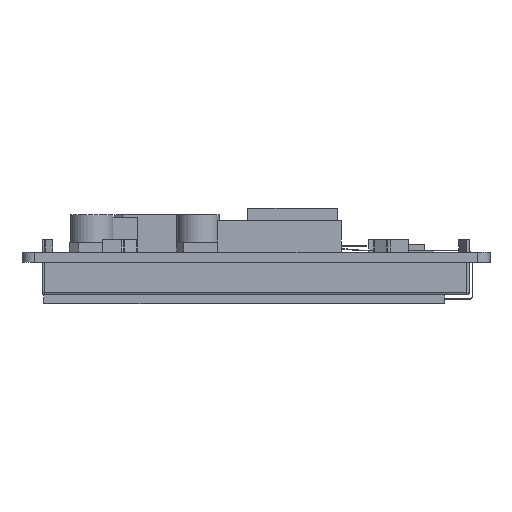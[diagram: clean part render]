
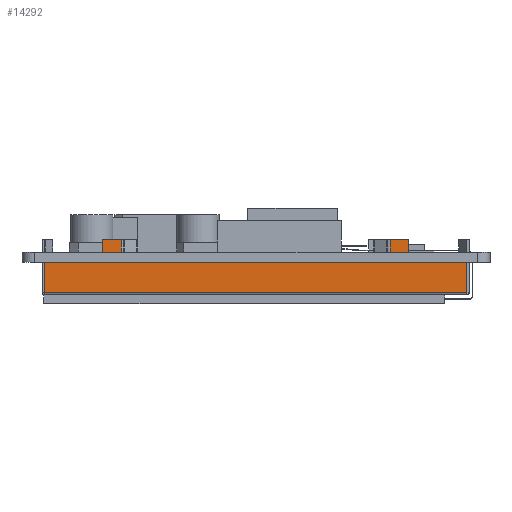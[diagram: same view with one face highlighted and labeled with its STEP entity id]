
A CAD part, left-side view. The second image highlights one B-rep face of the part: STEP entity #14292.
In plain terms, the highlighted planar face has unit normal (-1, 0, 0).
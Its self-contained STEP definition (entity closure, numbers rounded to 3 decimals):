
#5858=LINE('',#49571,#9695);
#5864=LINE('',#49585,#9701);
#5866=LINE('',#49589,#9703);
#5867=LINE('',#49592,#9704);
#5868=LINE('',#49594,#9705);
#5869=LINE('',#49596,#9706);
#5870=LINE('',#49598,#9707);
#5871=LINE('',#49600,#9708);
#5872=LINE('',#49601,#9709);
#5873=LINE('',#49603,#9710);
#5874=LINE('',#49605,#9711);
#5875=LINE('',#49607,#9712);
#5876=LINE('',#49609,#9713);
#5877=LINE('',#49610,#9714);
#5878=LINE('',#49612,#9715);
#5879=LINE('',#49614,#9716);
#9695=VECTOR('',#40676,1.);
#9701=VECTOR('',#40684,1.);
#9703=VECTOR('',#40688,1.);
#9704=VECTOR('',#40689,1.);
#9705=VECTOR('',#40690,1.);
#9706=VECTOR('',#40691,1.);
#9707=VECTOR('',#40692,1.);
#9708=VECTOR('',#40693,1.);
#9709=VECTOR('',#40694,1.);
#9710=VECTOR('',#40695,1.);
#9711=VECTOR('',#40696,1.);
#9712=VECTOR('',#40697,1.);
#9713=VECTOR('',#40698,1.);
#9714=VECTOR('',#40699,1.);
#9715=VECTOR('',#40700,1.);
#9716=VECTOR('',#40701,1.);
#11348=PLANE('',#33976);
#12796=FACE_OUTER_BOUND('',#16137,.T.);
#14292=ADVANCED_FACE('',(#12796),#11348,.F.);
#16137=EDGE_LOOP('',(#23650,#23651,#23652,#23653,#23654,#23655,#23656,#23657,
#23658,#23659,#23660,#23661,#23662,#23663,#23664,#23665));
#23650=ORIENTED_EDGE('',*,*,#31410,.T.);
#23651=ORIENTED_EDGE('',*,*,#31411,.F.);
#23652=ORIENTED_EDGE('',*,*,#31412,.F.);
#23653=ORIENTED_EDGE('',*,*,#31413,.T.);
#23654=ORIENTED_EDGE('',*,*,#31414,.T.);
#23655=ORIENTED_EDGE('',*,*,#31415,.T.);
#23656=ORIENTED_EDGE('',*,*,#31408,.T.);
#23657=ORIENTED_EDGE('',*,*,#31416,.F.);
#23658=ORIENTED_EDGE('',*,*,#31417,.T.);
#23659=ORIENTED_EDGE('',*,*,#31418,.F.);
#23660=ORIENTED_EDGE('',*,*,#31419,.F.);
#23661=ORIENTED_EDGE('',*,*,#31420,.T.);
#23662=ORIENTED_EDGE('',*,*,#31402,.T.);
#23663=ORIENTED_EDGE('',*,*,#31421,.F.);
#23664=ORIENTED_EDGE('',*,*,#31422,.F.);
#23665=ORIENTED_EDGE('',*,*,#31423,.T.);
#27346=VERTEX_POINT('',#49572);
#27347=VERTEX_POINT('',#49573);
#27352=VERTEX_POINT('',#49584);
#27353=VERTEX_POINT('',#49586);
#27354=VERTEX_POINT('',#49590);
#27355=VERTEX_POINT('',#49591);
#27356=VERTEX_POINT('',#49593);
#27357=VERTEX_POINT('',#49595);
#27358=VERTEX_POINT('',#49597);
#27359=VERTEX_POINT('',#49599);
#27360=VERTEX_POINT('',#49602);
#27361=VERTEX_POINT('',#49604);
#27362=VERTEX_POINT('',#49606);
#27363=VERTEX_POINT('',#49608);
#27364=VERTEX_POINT('',#49611);
#27365=VERTEX_POINT('',#49613);
#31402=EDGE_CURVE('',#27346,#27347,#5858,.T.);
#31408=EDGE_CURVE('',#27353,#27352,#5864,.T.);
#31410=EDGE_CURVE('',#27354,#27355,#5866,.T.);
#31411=EDGE_CURVE('',#27356,#27355,#5867,.T.);
#31412=EDGE_CURVE('',#27357,#27356,#5868,.T.);
#31413=EDGE_CURVE('',#27357,#27358,#5869,.T.);
#31414=EDGE_CURVE('',#27358,#27359,#5870,.T.);
#31415=EDGE_CURVE('',#27359,#27353,#5871,.T.);
#31416=EDGE_CURVE('',#27360,#27352,#5872,.T.);
#31417=EDGE_CURVE('',#27360,#27361,#5873,.T.);
#31418=EDGE_CURVE('',#27362,#27361,#5874,.T.);
#31419=EDGE_CURVE('',#27363,#27362,#5875,.T.);
#31420=EDGE_CURVE('',#27363,#27346,#5876,.T.);
#31421=EDGE_CURVE('',#27364,#27347,#5877,.T.);
#31422=EDGE_CURVE('',#27365,#27364,#5878,.T.);
#31423=EDGE_CURVE('',#27365,#27354,#5879,.T.);
#33976=AXIS2_PLACEMENT_3D('',#49615,#40702,#40703);
#40676=DIRECTION('',(0.,1.,0.));
#40684=DIRECTION('',(0.,1.,0.));
#40688=DIRECTION('',(0.,1.,0.));
#40689=DIRECTION('',(0.,0.,-1.));
#40690=DIRECTION('',(0.,-1.,0.));
#40691=DIRECTION('',(0.,0.,-1.));
#40692=DIRECTION('',(0.,1.,0.));
#40693=DIRECTION('',(0.,0.,-1.));
#40694=DIRECTION('',(0.,0.,-1.));
#40695=DIRECTION('',(0.,-1.,0.));
#40696=DIRECTION('',(0.,0.,-1.));
#40697=DIRECTION('',(0.,-1.,0.));
#40698=DIRECTION('',(0.,0.,-1.));
#40699=DIRECTION('',(0.,0.,1.));
#40700=DIRECTION('',(0.,1.,0.));
#40701=DIRECTION('',(0.,0.,1.));
#40702=DIRECTION('',(1.,0.,0.));
#40703=DIRECTION('',(0.,-1.,0.));
#49571=CARTESIAN_POINT('',(67.65,-14.395,-1.6));
#49572=CARTESIAN_POINT('',(67.65,43.765,-1.6));
#49573=CARTESIAN_POINT('',(67.65,53.005,-1.6));
#49584=CARTESIAN_POINT('',(67.65,40.765,-1.6));
#49585=CARTESIAN_POINT('',(67.65,-14.395,-1.6));
#49586=CARTESIAN_POINT('',(67.65,-2.155,-1.6));
#49589=CARTESIAN_POINT('',(67.65,-14.395,-1.6));
#49590=CARTESIAN_POINT('',(67.65,-14.395,-1.6));
#49591=CARTESIAN_POINT('',(67.65,-5.155,-1.6));
#49592=CARTESIAN_POINT('',(67.65,-5.155,0.));
#49593=CARTESIAN_POINT('',(67.65,-5.155,2.));
#49594=CARTESIAN_POINT('',(67.65,-2.19,2.));
#49595=CARTESIAN_POINT('',(67.65,-2.19,2.));
#49596=CARTESIAN_POINT('',(67.65,-2.19,2.));
#49597=CARTESIAN_POINT('',(67.65,-2.19,0.));
#49598=CARTESIAN_POINT('',(67.65,-5.155,0.));
#49599=CARTESIAN_POINT('',(67.65,-2.155,0.));
#49600=CARTESIAN_POINT('',(67.65,-2.155,0.));
#49601=CARTESIAN_POINT('',(67.65,40.765,0.));
#49602=CARTESIAN_POINT('',(67.65,40.765,0.));
#49603=CARTESIAN_POINT('',(67.65,43.765,0.));
#49604=CARTESIAN_POINT('',(67.65,40.754,0.));
#49605=CARTESIAN_POINT('',(67.65,40.754,2.));
#49606=CARTESIAN_POINT('',(67.65,40.754,2.));
#49607=CARTESIAN_POINT('',(67.65,43.765,2.));
#49608=CARTESIAN_POINT('',(67.65,43.765,2.));
#49609=CARTESIAN_POINT('',(67.65,43.765,0.));
#49610=CARTESIAN_POINT('',(67.65,53.005,-6.4));
#49611=CARTESIAN_POINT('',(67.65,53.005,-6.4));
#49612=CARTESIAN_POINT('',(67.65,-14.395,-6.4));
#49613=CARTESIAN_POINT('',(67.65,-14.395,-6.4));
#49614=CARTESIAN_POINT('',(67.65,-14.395,-6.4));
#49615=CARTESIAN_POINT('',(67.65,-14.395,-6.4));
